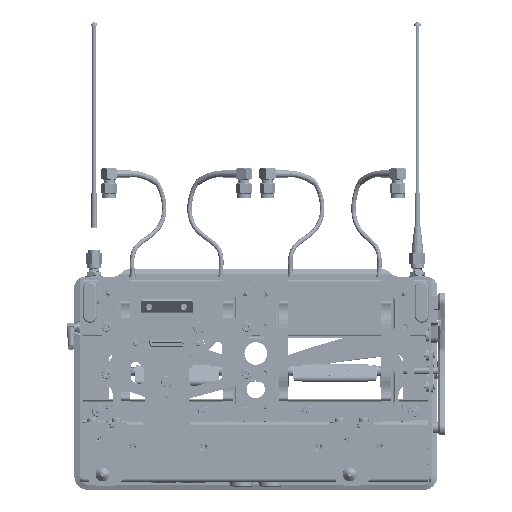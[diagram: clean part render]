
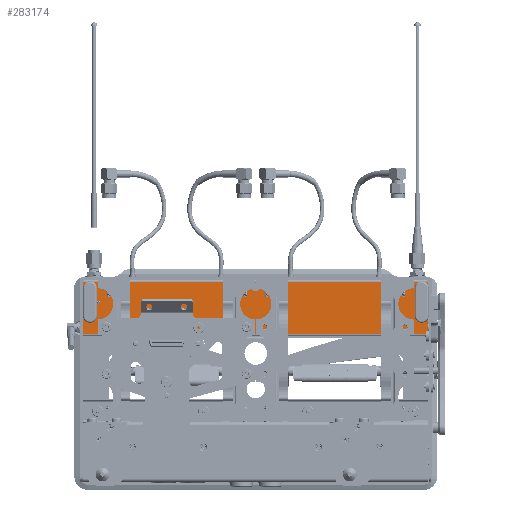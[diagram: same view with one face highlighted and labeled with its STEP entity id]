
A CAD part, front view. The second image highlights one B-rep face of the part: STEP entity #283174.
In plain terms, the highlighted planar face has unit normal (0, -1, 0).
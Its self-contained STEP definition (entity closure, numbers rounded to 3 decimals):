
#4969=FACE_BOUND('',#39428,.T.);
#4970=FACE_BOUND('',#39429,.T.);
#4971=FACE_BOUND('',#39430,.T.);
#4972=FACE_BOUND('',#39431,.T.);
#4973=FACE_BOUND('',#39432,.T.);
#12740=PLANE('',#300492);
#23470=FACE_OUTER_BOUND('',#39427,.T.);
#39427=EDGE_LOOP('',(#206993,#206994,#206995,#206996));
#39428=EDGE_LOOP('',(#206997,#206998,#206999,#207000,#207001,#207002));
#39429=EDGE_LOOP('',(#207003,#207004,#207005,#207006,#207007,#207008));
#39430=EDGE_LOOP('',(#207009,#207010,#207011,#207012,#207013,#207014));
#39431=EDGE_LOOP('',(#207015));
#39432=EDGE_LOOP('',(#207016));
#59672=LINE('',#467732,#83958);
#59673=LINE('',#467734,#83959);
#59674=LINE('',#467736,#83960);
#59675=LINE('',#467738,#83961);
#59676=LINE('',#467740,#83962);
#59677=LINE('',#467741,#83963);
#59706=LINE('',#467817,#83992);
#59707=LINE('',#467819,#83993);
#59708=LINE('',#467821,#83994);
#59709=LINE('',#467823,#83995);
#59710=LINE('',#467825,#83996);
#59711=LINE('',#467826,#83997);
#59740=LINE('',#467900,#84026);
#59741=LINE('',#467902,#84027);
#59742=LINE('',#467904,#84028);
#59743=LINE('',#467906,#84029);
#59744=LINE('',#467908,#84030);
#59745=LINE('',#467909,#84031);
#59790=LINE('',#468015,#84076);
#59796=LINE('',#468088,#84082);
#59798=LINE('',#468092,#84084);
#59799=LINE('',#468093,#84085);
#83958=VECTOR('',#338674,10.);
#83959=VECTOR('',#338675,10.);
#83960=VECTOR('',#338676,10.);
#83961=VECTOR('',#338677,10.);
#83962=VECTOR('',#338678,10.);
#83963=VECTOR('',#338679,10.);
#83992=VECTOR('',#338748,10.);
#83993=VECTOR('',#338749,10.);
#83994=VECTOR('',#338750,10.);
#83995=VECTOR('',#338751,10.);
#83996=VECTOR('',#338752,10.);
#83997=VECTOR('',#338753,10.);
#84026=VECTOR('',#338820,10.);
#84027=VECTOR('',#338821,10.);
#84028=VECTOR('',#338822,10.);
#84029=VECTOR('',#338823,10.);
#84030=VECTOR('',#338824,10.);
#84031=VECTOR('',#338825,10.);
#84076=VECTOR('',#338908,10.);
#84082=VECTOR('',#338920,10.);
#84084=VECTOR('',#338924,10.);
#84085=VECTOR('',#338925,10.);
#101537=CIRCLE('',#300479,1.7);
#101538=CIRCLE('',#300481,1.7);
#121729=VERTEX_POINT('',#467730);
#121730=VERTEX_POINT('',#467731);
#121731=VERTEX_POINT('',#467733);
#121732=VERTEX_POINT('',#467735);
#121733=VERTEX_POINT('',#467737);
#121734=VERTEX_POINT('',#467739);
#121760=VERTEX_POINT('',#467815);
#121761=VERTEX_POINT('',#467816);
#121762=VERTEX_POINT('',#467818);
#121763=VERTEX_POINT('',#467820);
#121764=VERTEX_POINT('',#467822);
#121765=VERTEX_POINT('',#467824);
#121790=VERTEX_POINT('',#467898);
#121791=VERTEX_POINT('',#467899);
#121792=VERTEX_POINT('',#467901);
#121793=VERTEX_POINT('',#467903);
#121794=VERTEX_POINT('',#467905);
#121795=VERTEX_POINT('',#467907);
#121816=VERTEX_POINT('',#467967);
#121817=VERTEX_POINT('',#467971);
#121829=VERTEX_POINT('',#468006);
#121830=VERTEX_POINT('',#468014);
#121833=VERTEX_POINT('',#468087);
#121834=VERTEX_POINT('',#468091);
#152815=EDGE_CURVE('',#121729,#121730,#59672,.T.);
#152816=EDGE_CURVE('',#121731,#121729,#59673,.T.);
#152817=EDGE_CURVE('',#121732,#121731,#59674,.T.);
#152818=EDGE_CURVE('',#121733,#121732,#59675,.T.);
#152819=EDGE_CURVE('',#121734,#121733,#59676,.T.);
#152820=EDGE_CURVE('',#121730,#121734,#59677,.T.);
#152855=EDGE_CURVE('',#121760,#121761,#59706,.T.);
#152856=EDGE_CURVE('',#121762,#121760,#59707,.T.);
#152857=EDGE_CURVE('',#121763,#121762,#59708,.T.);
#152858=EDGE_CURVE('',#121764,#121763,#59709,.T.);
#152859=EDGE_CURVE('',#121765,#121764,#59710,.T.);
#152860=EDGE_CURVE('',#121761,#121765,#59711,.T.);
#152894=EDGE_CURVE('',#121790,#121791,#59740,.T.);
#152895=EDGE_CURVE('',#121792,#121790,#59741,.T.);
#152896=EDGE_CURVE('',#121793,#121792,#59742,.T.);
#152897=EDGE_CURVE('',#121794,#121793,#59743,.T.);
#152898=EDGE_CURVE('',#121795,#121794,#59744,.T.);
#152899=EDGE_CURVE('',#121791,#121795,#59745,.T.);
#152928=EDGE_CURVE('',#121816,#121816,#101537,.T.);
#152930=EDGE_CURVE('',#121817,#121817,#101538,.T.);
#152948=EDGE_CURVE('',#121830,#121829,#59790,.T.);
#152957=EDGE_CURVE('',#121830,#121833,#59796,.T.);
#152959=EDGE_CURVE('',#121834,#121829,#59798,.T.);
#152960=EDGE_CURVE('',#121834,#121833,#59799,.T.);
#206993=ORIENTED_EDGE('',*,*,#152948,.T.);
#206994=ORIENTED_EDGE('',*,*,#152959,.F.);
#206995=ORIENTED_EDGE('',*,*,#152960,.T.);
#206996=ORIENTED_EDGE('',*,*,#152957,.F.);
#206997=ORIENTED_EDGE('',*,*,#152815,.T.);
#206998=ORIENTED_EDGE('',*,*,#152820,.T.);
#206999=ORIENTED_EDGE('',*,*,#152819,.T.);
#207000=ORIENTED_EDGE('',*,*,#152818,.T.);
#207001=ORIENTED_EDGE('',*,*,#152817,.T.);
#207002=ORIENTED_EDGE('',*,*,#152816,.T.);
#207003=ORIENTED_EDGE('',*,*,#152855,.T.);
#207004=ORIENTED_EDGE('',*,*,#152860,.T.);
#207005=ORIENTED_EDGE('',*,*,#152859,.T.);
#207006=ORIENTED_EDGE('',*,*,#152858,.T.);
#207007=ORIENTED_EDGE('',*,*,#152857,.T.);
#207008=ORIENTED_EDGE('',*,*,#152856,.T.);
#207009=ORIENTED_EDGE('',*,*,#152894,.T.);
#207010=ORIENTED_EDGE('',*,*,#152899,.T.);
#207011=ORIENTED_EDGE('',*,*,#152898,.T.);
#207012=ORIENTED_EDGE('',*,*,#152897,.T.);
#207013=ORIENTED_EDGE('',*,*,#152896,.T.);
#207014=ORIENTED_EDGE('',*,*,#152895,.T.);
#207015=ORIENTED_EDGE('',*,*,#152928,.T.);
#207016=ORIENTED_EDGE('',*,*,#152930,.T.);
#283174=ADVANCED_FACE('',(#23470,#4969,#4970,#4971,#4972,#4973),#12740,
 .T.);
#300479=AXIS2_PLACEMENT_3D('',#467968,#338872,#338873);
#300481=AXIS2_PLACEMENT_3D('',#467972,#338877,#338878);
#300492=AXIS2_PLACEMENT_3D('',#468090,#338922,#338923);
#338674=DIRECTION('',(-0.532,0.,-0.847));
#338675=DIRECTION('',(0.467,0.,-0.884));
#338676=DIRECTION('',(0.999,0.,-0.038));
#338677=DIRECTION('',(0.532,0.,0.847));
#338678=DIRECTION('',(-0.467,0.,0.884));
#338679=DIRECTION('',(-0.999,0.,0.038));
#338748=DIRECTION('',(0.38,0.,0.925));
#338749=DIRECTION('',(-0.611,0.,0.792));
#338750=DIRECTION('',(-0.991,0.,-0.133));
#338751=DIRECTION('',(-0.38,0.,-0.925));
#338752=DIRECTION('',(0.611,0.,-0.792));
#338753=DIRECTION('',(0.991,0.,0.133));
#338820=DIRECTION('',(-0.683,0.,-0.731));
#338821=DIRECTION('',(0.291,0.,-0.957));
#338822=DIRECTION('',(0.974,0.,-0.226));
#338823=DIRECTION('',(0.683,0.,0.731));
#338824=DIRECTION('',(-0.291,0.,0.957));
#338825=DIRECTION('',(-0.974,0.,0.226));
#338872=DIRECTION('center_axis',(0.,1.,0.));
#338873=DIRECTION('ref_axis',(-1.,0.,0.));
#338877=DIRECTION('center_axis',(0.,1.,0.));
#338878=DIRECTION('ref_axis',(-1.,0.,0.));
#338908=DIRECTION('',(-1.,0.,0.));
#338920=DIRECTION('',(0.,0.,-1.));
#338922=DIRECTION('center_axis',(0.,-1.,0.));
#338923=DIRECTION('ref_axis',(-1.,0.,0.));
#338924=DIRECTION('',(0.,0.,1.));
#338925=DIRECTION('',(1.,0.,0.));
#467730=CARTESIAN_POINT('',(53.965,38.2,-30.914));
#467731=CARTESIAN_POINT('',(52.505,38.2,-33.235));
#467732=CARTESIAN_POINT('',(50.887,38.2,-35.808));
#467733=CARTESIAN_POINT('',(52.685,38.2,-28.489));
#467734=CARTESIAN_POINT('',(55.491,38.2,-33.803));
#467735=CARTESIAN_POINT('',(49.945,38.2,-28.385));
#467736=CARTESIAN_POINT('',(50.857,38.2,-28.42));
#467737=CARTESIAN_POINT('',(48.485,38.2,-30.707));
#467738=CARTESIAN_POINT('',(46.137,38.2,-34.44));
#467739=CARTESIAN_POINT('',(49.765,38.2,-33.132));
#467740=CARTESIAN_POINT('',(51.93,38.2,-37.233));
#467741=CARTESIAN_POINT('',(52.048,38.2,-33.218));
#467815=CARTESIAN_POINT('',(129.152,38.2,-34.985));
#467816=CARTESIAN_POINT('',(130.195,38.2,-32.449));
#467817=CARTESIAN_POINT('',(122.13,38.2,-52.056));
#467818=CARTESIAN_POINT('',(130.827,38.2,-37.156));
#467819=CARTESIAN_POINT('',(117.359,38.2,-19.694));
#467820=CARTESIAN_POINT('',(133.545,38.2,-36.792));
#467821=CARTESIAN_POINT('',(92.713,38.2,-42.27));
#467822=CARTESIAN_POINT('',(134.588,38.2,-34.256));
#467823=CARTESIAN_POINT('',(127.045,38.2,-52.595));
#467824=CARTESIAN_POINT('',(132.913,38.2,-32.084));
#467825=CARTESIAN_POINT('',(120.283,38.2,-15.707));
#467826=CARTESIAN_POINT('',(90.723,38.2,-37.744));
#467898=CARTESIAN_POINT('',(-26.749,38.2,-35.24));
#467899=CARTESIAN_POINT('',(-28.621,38.2,-37.244));
#467900=CARTESIAN_POINT('',(-10.466,38.2,-17.822));
#467901=CARTESIAN_POINT('',(-27.547,38.2,-32.617));
#467902=CARTESIAN_POINT('',(-22.782,38.2,-48.272));
#467903=CARTESIAN_POINT('',(-30.219,38.2,-31.997));
#467904=CARTESIAN_POINT('',(9.616,38.2,-41.245));
#467905=CARTESIAN_POINT('',(-32.091,38.2,-34.));
#467906=CARTESIAN_POINT('',(-14.872,38.2,-15.58));
#467907=CARTESIAN_POINT('',(-31.293,38.2,-36.624));
#467908=CARTESIAN_POINT('',(-26.927,38.2,-50.967));
#467909=CARTESIAN_POINT('',(9.878,38.2,-46.181));
#467967=CARTESIAN_POINT('',(148.35,38.2,-39.438));
#467968=CARTESIAN_POINT('Origin',(146.65,38.2,-39.438));
#467971=CARTESIAN_POINT('',(-42.5,38.2,-39.438));
#467972=CARTESIAN_POINT('Origin',(-44.2,38.2,-39.438));
#468006=CARTESIAN_POINT('',(-47.95,38.2,-27.7));
#468014=CARTESIAN_POINT('',(150.4,38.2,-27.7));
#468015=CARTESIAN_POINT('',(100.813,38.2,-27.7));
#468087=CARTESIAN_POINT('',(150.4,38.2,-58.));
#468088=CARTESIAN_POINT('',(150.4,38.2,-59.2));
#468090=CARTESIAN_POINT('Origin',(51.225,38.2,-42.85));
#468091=CARTESIAN_POINT('',(-47.95,38.2,-58.));
#468092=CARTESIAN_POINT('',(-47.95,38.2,-26.5));
#468093=CARTESIAN_POINT('',(1.638,38.2,-58.));
